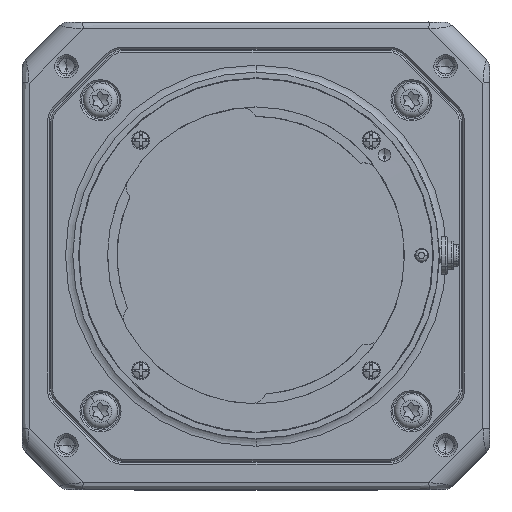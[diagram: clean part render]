
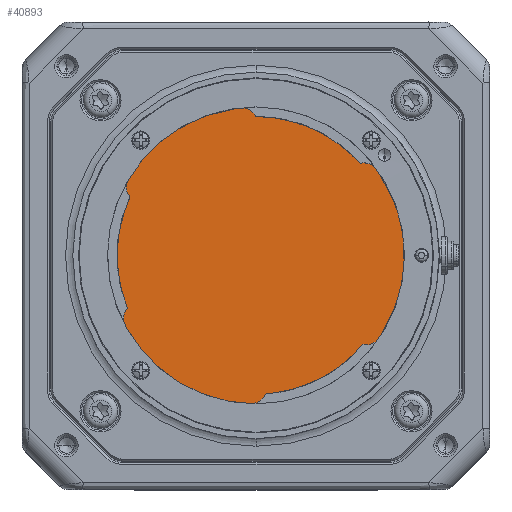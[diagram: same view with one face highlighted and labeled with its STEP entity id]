
A CAD part, top view. The second image highlights one B-rep face of the part: STEP entity #40893.
In plain terms, the highlighted planar face has unit normal (0, 0, 1).
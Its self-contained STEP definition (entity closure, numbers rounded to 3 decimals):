
#6688=CARTESIAN_POINT('',(0.,0.001,
22.88));
#6689=DIRECTION('',(0.,0.,-1.));
#6690=DIRECTION('',(0.,-1.,0.));
#6691=AXIS2_PLACEMENT_3D('',#6688,#6689,#6690);
#6693=CARTESIAN_POINT('',(0.,0.001,
22.88));
#6694=DIRECTION('',(0.,0.,-1.));
#6695=DIRECTION('',(0.,1.,0.));
#6696=AXIS2_PLACEMENT_3D('',#6693,#6694,#6695);
#28974=CARTESIAN_POINT('',(0.,-24.599,
22.882));
#28975=VERTEX_POINT('',#28974);
#28976=CARTESIAN_POINT('',(0.,24.601,
22.878));
#28977=VERTEX_POINT('',#28976);
#40883=CARTESIAN_POINT('',(0.,0.001,
22.88));
#40884=DIRECTION('',(0.,0.,1.));
#40885=DIRECTION('',(1.,0.,0.));
#40886=AXIS2_PLACEMENT_3D('',#40883,#40884,#40885);
#40887=PLANE('',#40886);
#40888=ORIENTED_EDGE('',*,*,#40873,.T.);
#40890=ORIENTED_EDGE('',*,*,#40889,.T.);
#40891=EDGE_LOOP('',(#40888,#40890));
#40892=FACE_OUTER_BOUND('',#40891,.F.);
#40893=ADVANCED_FACE('',(#40892),#40887,.T.);
#6692=CIRCLE('',#6691,24.6);
#6697=CIRCLE('',#6696,24.6);
#40873=EDGE_CURVE('',#28975,#28977,#6692,.T.);
#40889=EDGE_CURVE('',#28977,#28975,#6697,.T.);
